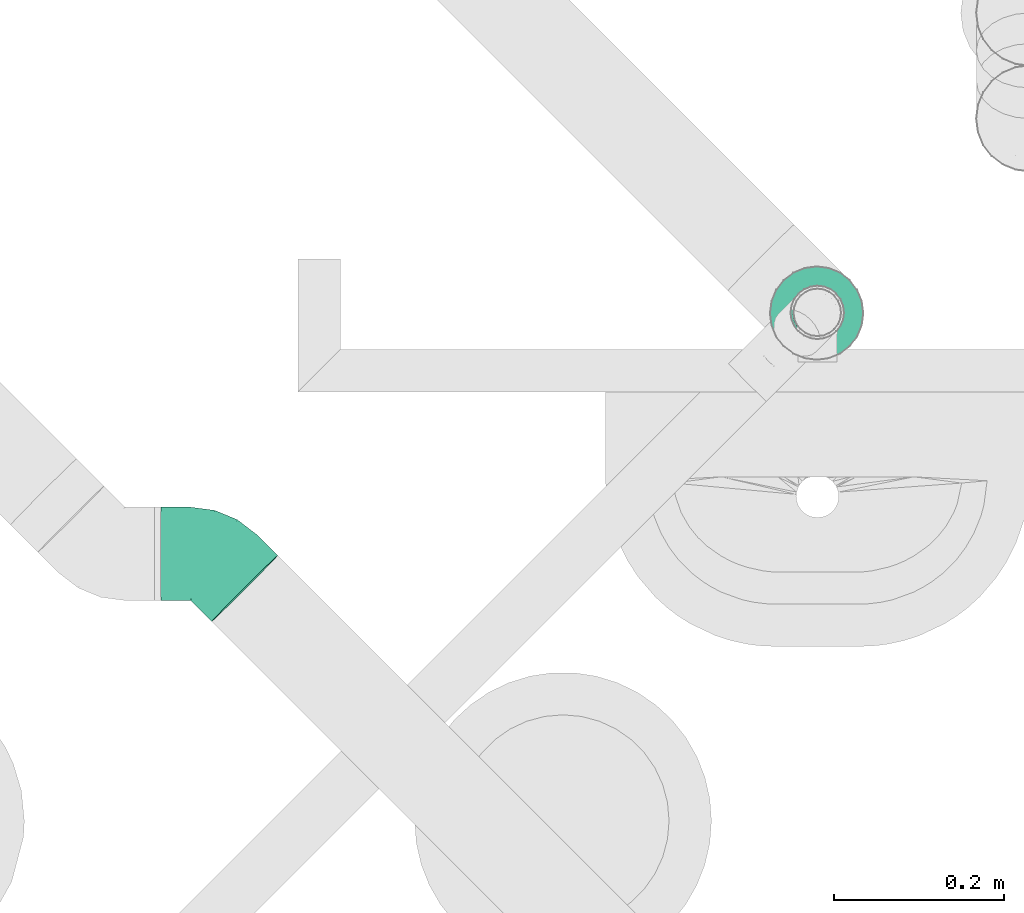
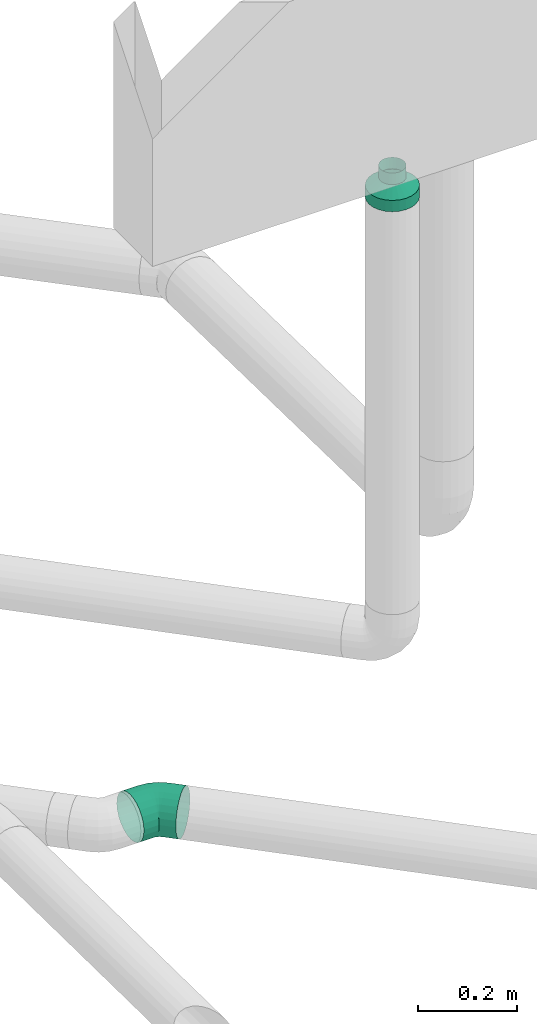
# One storey, part 138 of 374: 2 flow fittings.
"""IFC2X3 building model written with IfcOpenShell, lengths in metres."""

from ifc_helpers import new_model, si_unit, direction, origin, place, context, subcontext, project, spatial, open_shell, surface_model, source, transform, mapped, element, save


model = new_model("IFC2X3")

# Units and contexts
model_context = context("Model", 3, precision=1e-05, world=origin(), true_north=direction((-0.4480736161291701, 0.8939966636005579)))
body_context = subcontext(model_context, "Body", "Model", "MODEL_VIEW")
ifc_project = project(units=[si_unit("LENGTHUNIT", "METRE"), si_unit("AREAUNIT", "SQUARE_METRE"), si_unit("VOLUMEUNIT", "CUBIC_METRE"), si_unit("PLANEANGLEUNIT", "RADIAN"), si_unit("THERMODYNAMICTEMPERATUREUNIT", "KELVIN"), si_unit("MASSUNIT", "GRAM", prefix="KILO"), si_unit("TIMEUNIT", "SECOND")], contexts=[model_context])

# Site, building, storey
site_placement = place(None, origin())
site = spatial("IfcSite", under=ifc_project, at=site_placement, Name="Site 1", CompositionType="ELEMENT")
building_placement = place(site_placement, origin())
building = spatial("IfcBuilding", under=site, at=building_placement, Name="Undefined", CompositionType="ELEMENT")
storey_placement = place(building_placement, origin())
storey = spatial("IfcBuildingStorey", under=building, at=storey_placement, Name="Rez de chauss\x8ee", CompositionType="ELEMENT", Elevation=0.0)

# Flow fittings
shared_shape_1 = source(origin(), body_context, "Body", "SurfaceModel", [
    surface_model("IfcFaceBasedSurfaceModel", [(0.0, 0.014357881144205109, -3.552713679e-15), (0.0, 0.0, 0.0), (0.03509999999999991, 1.776356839e-15, -1.776356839e-15), (0.03509999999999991, 0.014357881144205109, 0.0), (0.0, -0.01386864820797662, -0.0037160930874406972), (0.035100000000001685, -0.01386864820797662, -0.003716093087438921), (0.0, -0.026302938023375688, -0.010895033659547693), (0.03509999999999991, -0.026302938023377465, -0.010895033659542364), (0.0, -0.03645549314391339, -0.021047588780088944), (0.035100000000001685, -0.03645549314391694, -0.021047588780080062), (0.0, -0.04363443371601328, -0.033481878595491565), (0.035100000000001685, -0.043634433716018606, -0.03348187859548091), (0.0, -0.04735052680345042, -0.04735052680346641), (0.03510000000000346, -0.04735052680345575, -0.04735052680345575), (0.0, -0.04735052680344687, -0.06170840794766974), (0.035100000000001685, -0.047350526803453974, -0.061708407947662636), (0.0, -0.04363443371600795, -0.07557705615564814), (0.035100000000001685, -0.04363443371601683, -0.07557705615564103), (0.0, -0.03645549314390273, -0.08801134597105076), (0.035100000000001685, -0.03645549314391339, -0.08801134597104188), (0.0, -0.026302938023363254, -0.0981639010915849), (0.03510000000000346, -0.026302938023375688, -0.09816390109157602), (0.0, -0.013868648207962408, -0.1053428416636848), (0.03510000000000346, -0.013868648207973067, -0.10534284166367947), (0.0, 1.5987211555e-14, -0.10905893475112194), (0.03510000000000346, 5.329070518e-15, -0.10905893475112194), (0.0, 0.014357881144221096, -0.10905893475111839), (0.035100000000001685, 0.014357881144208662, -0.10905893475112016), (0.0, 0.028226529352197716, -0.10534284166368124), (0.03510000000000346, 0.02822652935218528, -0.10534284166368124), (0.0, 0.040660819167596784, -0.0981639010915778), (0.03510000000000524, 0.040660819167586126, -0.09816390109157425), (0.0, 0.05081337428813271, -0.08801134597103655), (0.035100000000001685, 0.050813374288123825, -0.08801134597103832), (0.0, 0.05799231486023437, -0.07557705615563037), (0.035100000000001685, 0.05799231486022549, -0.07557705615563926), (0.0, 0.06170840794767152, -0.06170840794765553), (0.035100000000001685, 0.06170840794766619, -0.06170840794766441), (0.0, 0.061708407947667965, -0.0473505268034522), (0.035100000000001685, 0.061708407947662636, -0.0473505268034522), (0.0, 0.05799231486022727, -0.033481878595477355), (0.03510000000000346, 0.057992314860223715, -0.033481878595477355), (0.0, 0.050813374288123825, -0.021047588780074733), (0.035100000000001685, 0.05081337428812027, -0.021047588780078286), (0.0, 0.04066081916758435, -0.010895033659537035), (0.035100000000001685, 0.040660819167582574, -0.010895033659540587), (0.0, 0.028226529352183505, -0.0037160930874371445), (0.035100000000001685, 0.028226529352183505, -0.003716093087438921), (0.06308180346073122, -0.04369860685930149, -0.0621891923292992), (0.06356679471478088, -0.043635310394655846, -0.047839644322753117), (0.08915714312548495, -0.03299166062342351, -0.06359878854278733), (0.09009408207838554, -0.03274278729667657, -0.04927367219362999), (0.111549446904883, -0.015959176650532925, -0.0658411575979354), (0.11287449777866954, -0.015415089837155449, -0.05155490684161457), (0.06165988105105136, -0.040168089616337, -0.07603340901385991), (0.086410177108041, -0.03000522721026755, -0.07737137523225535), (0.10766459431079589, -0.013838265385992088, -0.07949979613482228), (0.05939792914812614, -0.033284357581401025, -0.0884288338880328), (0.08204038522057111, -0.023987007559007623, -0.08965285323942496), (0.10148468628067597, -0.009196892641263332, -0.09160000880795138), (0.05645009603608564, -0.02351652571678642, -0.09853073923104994), (0.07634556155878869, -0.015347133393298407, -0.09960626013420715), (0.0934308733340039, -0.0023513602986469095, -0.10131718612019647), (0.05301727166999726, -0.011530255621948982, -0.10565069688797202), (0.06971379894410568, -0.004674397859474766, -0.10655328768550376), (0.08405200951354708, 0.006231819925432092, -0.10798911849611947), (0.04933339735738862, 0.0018576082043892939, -0.10930349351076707), (0.06259704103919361, 0.007303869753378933, -0.11002050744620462), (0.07398724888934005, 0.015967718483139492, -0.1111611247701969), (0.04564952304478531, 0.015734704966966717, -0.10924019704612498), (0.0554802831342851, 0.01977137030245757, -0.10977163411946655), (0.06392248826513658, 0.026192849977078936, -0.1106170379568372), (0.04221669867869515, 0.02915533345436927, -0.1054651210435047), (0.04884852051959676, 0.03187846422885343, -0.10582362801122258), (0.054543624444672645, 0.03621038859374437, -0.10639393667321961), (0.039268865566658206, 0.04120490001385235, -0.09823553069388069), (0.043153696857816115, 0.04280007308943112, -0.09844553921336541), (0.0464898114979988, 0.04533765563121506, -0.09877961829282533), (0.03700691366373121, 0.051062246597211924, -0.08804411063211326), (0.03878390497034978, 0.05179190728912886, -0.08814017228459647), (0.040309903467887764, 0.052952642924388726, -0.08829298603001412), (0.03558499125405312, 0.05805561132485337, -0.07558538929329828), (0.03603693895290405, 0.05824118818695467, -0.0756098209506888), (0.03642505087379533, 0.0585364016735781, -0.07564868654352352), (0.035584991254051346, 0.06177170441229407, -0.04735885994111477), (0.036036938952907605, 0.061957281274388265, -0.047383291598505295), (0.036425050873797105, 0.06225249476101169, -0.04742215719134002), (0.037006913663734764, 0.05824118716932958, -0.03351464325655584), (0.038783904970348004, 0.058970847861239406, -0.033610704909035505), (0.040309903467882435, 0.060131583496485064, -0.03376351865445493), (0.039268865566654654, 0.051357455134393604, -0.021119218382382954), (0.04315369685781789, 0.05295262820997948, -0.02132922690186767), (0.04648981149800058, 0.0554902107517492, -0.02166330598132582), (0.04221669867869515, 0.04158962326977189, -0.011017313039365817), (0.048848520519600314, 0.044312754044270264, -0.01137582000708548), (0.05454362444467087, 0.048644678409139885, -0.011946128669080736), (0.04564952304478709, 0.02960335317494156, -0.0038973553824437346), (0.0554802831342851, 0.03364001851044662, -0.004428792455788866), (0.06392248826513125, 0.04006149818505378, -0.005274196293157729), (0.049333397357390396, 0.016215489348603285, -0.00024455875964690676), (0.06259704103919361, 0.02166175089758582, -0.0009615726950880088), (0.07398724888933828, 0.030325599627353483, -0.0021021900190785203), (0.05301727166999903, 0.002338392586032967, -0.00030785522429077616), (0.06971379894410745, 0.009194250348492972, -0.0012104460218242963), (0.08405200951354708, 0.02010046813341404, -0.0026462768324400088), (0.05645009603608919, -0.011082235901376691, -0.004082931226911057), (0.07634556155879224, -0.002912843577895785, -0.0051584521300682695), (0.09343087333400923, 0.010082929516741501, -0.006869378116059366), (0.05939792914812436, -0.023131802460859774, -0.011312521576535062), (0.08204038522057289, -0.013834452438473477, -0.01253654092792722), (0.10148468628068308, 0.0009556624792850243, -0.014483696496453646), (0.06165988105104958, -0.03298914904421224, -0.021503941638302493), (0.08641017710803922, -0.022826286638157, -0.022841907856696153), (0.10766459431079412, -0.006659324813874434, -0.02497032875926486), (0.06308180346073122, -0.0399825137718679, -0.0339626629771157), (0.08915714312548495, -0.02927556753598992, -0.03537225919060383), (0.11154944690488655, -0.012243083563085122, -0.03761462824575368), (0.13637120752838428, 0.008645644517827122, -0.06908044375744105), (0.13769625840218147, 0.009189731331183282, -0.054794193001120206), (0.13248635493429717, 0.010766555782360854, -0.08273908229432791), (0.12630644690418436, 0.015407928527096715, -0.09483929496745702), (0.11825263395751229, 0.022253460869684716, -0.10455647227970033), (0.10887377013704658, 0.030836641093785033, -0.11122840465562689), (0.09880900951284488, 0.04057253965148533, -0.11440041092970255), (0.08874424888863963, 0.05079767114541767, -0.11385632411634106), (0.0793653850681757, 0.060815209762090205, -0.10963322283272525), (0.07131157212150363, 0.069942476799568, -0.10201890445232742), (0.06513166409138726, 0.07755746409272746, -0.09153227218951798), (0.061246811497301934, 0.08314122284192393, -0.07888797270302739), (0.05992176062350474, 0.08631322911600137, -0.06494769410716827), (0.06124681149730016, 0.08685731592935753, -0.05066144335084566), (0.06513166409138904, 0.0847364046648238, -0.03700280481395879), (0.07131157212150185, 0.08009503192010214, -0.02490259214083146), (0.07936538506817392, 0.07324949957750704, -0.015185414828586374), (0.08874424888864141, 0.06466631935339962, -0.008513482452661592), (0.09880900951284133, 0.05493042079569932, -0.005341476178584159), (0.10887377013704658, 0.04470528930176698, -0.005885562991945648), (0.11825263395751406, 0.03468775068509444, -0.010108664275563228), (0.12630644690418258, 0.02556048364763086, -0.01772298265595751), (0.13248635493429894, 0.017945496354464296, -0.028209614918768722), (0.13637120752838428, 0.01236173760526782, -0.04085391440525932)], [open_shell([[[0, 1, 2, 3]], [[1, 4, 5, 2]], [[4, 6, 7, 5]], [[6, 8, 9, 7]], [[8, 10, 11, 9]], [[10, 12, 13, 11]], [[12, 14, 15, 13]], [[14, 16, 17, 15]], [[16, 18, 19, 17]], [[18, 20, 21, 19]], [[20, 22, 23, 21]], [[22, 24, 25, 23]], [[24, 26, 27, 25]], [[26, 28, 29, 27]], [[28, 30, 31, 29]], [[30, 32, 33, 31]], [[32, 34, 35, 33]], [[34, 36, 37, 35]], [[36, 38, 39, 37]], [[38, 40, 41, 39]], [[40, 42, 43, 41]], [[42, 44, 45, 43]], [[44, 46, 47, 45]], [[46, 0, 3, 47]], [[13, 15, 48, 49]], [[49, 48, 50, 51]], [[51, 50, 52, 53]], [[15, 17, 54, 48]], [[48, 54, 55, 50]], [[50, 55, 56, 52]], [[17, 19, 57, 54]], [[54, 57, 58, 55]], [[55, 58, 59, 56]], [[19, 21, 60, 57]], [[57, 60, 61, 58]], [[58, 61, 62, 59]], [[21, 23, 63, 60]], [[60, 63, 64, 61]], [[61, 64, 65, 62]], [[23, 25, 66, 63]], [[63, 66, 67, 64]], [[64, 67, 68, 65]], [[25, 27, 69, 66]], [[66, 69, 70, 67]], [[67, 70, 71, 68]], [[27, 29, 72, 69]], [[69, 72, 73, 70]], [[70, 73, 74, 71]], [[29, 31, 75, 72]], [[72, 75, 76, 73]], [[73, 76, 77, 74]], [[31, 33, 78, 75]], [[75, 78, 79, 76]], [[76, 79, 80, 77]], [[33, 35, 81, 78]], [[78, 81, 82, 79]], [[79, 82, 83, 80]], [[35, 37, 81]], [[81, 37, 82]], [[82, 37, 83]], [[37, 39, 84]], [[37, 84, 85]], [[37, 85, 86]], [[39, 41, 87, 84]], [[84, 87, 88, 85]], [[85, 88, 89, 86]], [[41, 43, 90, 87]], [[87, 90, 91, 88]], [[88, 91, 92, 89]], [[43, 45, 93, 90]], [[90, 93, 94, 91]], [[91, 94, 95, 92]], [[45, 47, 96, 93]], [[93, 96, 97, 94]], [[94, 97, 98, 95]], [[47, 3, 99, 96]], [[96, 99, 100, 97]], [[97, 100, 101, 98]], [[3, 2, 102, 99]], [[99, 102, 103, 100]], [[100, 103, 104, 101]], [[2, 5, 105, 102]], [[102, 105, 106, 103]], [[103, 106, 107, 104]], [[5, 7, 108, 105]], [[105, 108, 109, 106]], [[106, 109, 110, 107]], [[7, 9, 111, 108]], [[108, 111, 112, 109]], [[109, 112, 113, 110]], [[9, 11, 114, 111]], [[111, 114, 115, 112]], [[112, 115, 116, 113]], [[11, 13, 49, 114]], [[114, 49, 51, 115]], [[115, 51, 53, 116]], [[53, 52, 117, 118]], [[52, 56, 119, 117]], [[56, 59, 120, 119]], [[59, 62, 121, 120]], [[62, 65, 122, 121]], [[65, 68, 123, 122]], [[68, 71, 124, 123]], [[71, 74, 125, 124]], [[74, 77, 126, 125]], [[77, 80, 127, 126]], [[80, 83, 128, 127]], [[83, 37, 129, 128]], [[37, 86, 130, 129]], [[86, 89, 131, 130]], [[89, 92, 132, 131]], [[92, 95, 133, 132]], [[95, 98, 134, 133]], [[98, 101, 135, 134]], [[101, 104, 136, 135]], [[104, 107, 137, 136]], [[107, 110, 138, 137]], [[110, 113, 139, 138]], [[113, 116, 140, 139]], [[116, 53, 118, 140]]])]),
])
flow_fitting_1_placement = place(storey_placement, origin())
element("IfcFlowFitting", 1, at=flow_fitting_1_placement, inside=storey, Name="PE-HD coude 45°", ObjectType="PE-HD coude 45°", context=body_context, shape_type="MappedRepresentation", body=[
    mapped(shared_shape_1, transform((57.80122476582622, 13.140743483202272, -1.2342732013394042), x_axis=(0.999980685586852, -9.316660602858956e-05, 0.006214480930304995), y_axis=(0.0006261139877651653, -0.9932909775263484, -0.11564013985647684), z_axis=(0.0061835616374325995, 0.11564179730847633, -0.993271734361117))),
])
shared_shape_2 = source(origin(), body_context, "Body", "SurfaceModel", [
    surface_model("IfcFaceBasedSurfaceModel", [(0.0, 0.014357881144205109, -3.552713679e-15), (0.0, 0.0, 0.0), (0.02785, 0.0, 0.0), (0.02785, 0.014357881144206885, 0.0), (0.0, -0.01386864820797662, -0.0037160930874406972), (0.02785, -0.013868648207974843, -0.0037160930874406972), (0.0, -0.026302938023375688, -0.010895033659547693), (0.02785, -0.02630293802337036, -0.010895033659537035), (0.0, -0.03645549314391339, -0.021047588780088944), (0.02785, -0.03645549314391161, -0.02104758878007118), (0.0, -0.04363443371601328, -0.033481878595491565), (0.02785, -0.04363443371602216, -0.033481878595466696), (0.0, -0.04735052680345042, -0.04735052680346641), (0.02785, -0.047350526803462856, -0.047350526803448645), (0.0, -0.04735052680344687, -0.06170840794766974), (0.02785, -0.047350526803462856, -0.061708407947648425), (0.0, -0.04363443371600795, -0.07557705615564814), (0.02785, -0.043634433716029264, -0.07557705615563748), (0.0, -0.03645549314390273, -0.08801134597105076), (0.02785, -0.03645549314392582, -0.0880113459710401), (0.0, -0.026302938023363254, -0.0981639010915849), (0.02785, -0.026302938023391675, -0.09816390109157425), (0.0, -0.013868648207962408, -0.1053428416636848), (0.02785, -0.013868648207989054, -0.10534284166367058), (0.0, 1.5987211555e-14, -0.10905893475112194), (0.02785, -1.4210854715e-14, -0.10905893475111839), (0.0, 0.014357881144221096, -0.10905893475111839), (0.02785, 0.014357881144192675, -0.10905893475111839), (0.0, 0.028226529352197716, -0.10534284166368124), (0.02785, 0.028226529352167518, -0.1053428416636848), (0.0, 0.040660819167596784, -0.0981639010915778), (0.02785, 0.040660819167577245, -0.09816390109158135), (0.0, 0.05081337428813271, -0.08801134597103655), (0.02785, 0.05081337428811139, -0.08801134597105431), (0.0, 0.05799231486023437, -0.07557705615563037), (0.02785, 0.05799231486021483, -0.07557705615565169), (0.0, 0.06170840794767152, -0.06170840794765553), (0.02785, 0.06170840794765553, -0.06170840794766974), (0.0, 0.061708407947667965, -0.0473505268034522), (0.02785, 0.061708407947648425, -0.04735052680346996), (0.0, 0.05799231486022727, -0.033481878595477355), (0.02785, 0.05799231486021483, -0.03348187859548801), (0.0, 0.050813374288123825, -0.021047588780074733), (0.02785, 0.0508133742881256, -0.021047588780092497), (0.0, 0.04066081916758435, -0.010895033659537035), (0.02785, 0.040660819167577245, -0.010895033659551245), (0.0, 0.028226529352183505, -0.0037160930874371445), (0.02785, 0.028226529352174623, -0.0037160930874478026), (0.047850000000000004, -0.020581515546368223, -0.05818420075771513), (0.047850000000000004, -0.02058151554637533, -0.05087473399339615), (0.047850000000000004, -0.018689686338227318, -0.06524460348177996), (0.047850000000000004, -0.015034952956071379, -0.07157478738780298), (0.047850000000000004, -0.00986637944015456, -0.0767433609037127), (0.047850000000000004, -0.0035361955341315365, -0.08039809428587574), (0.047850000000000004, 0.0035242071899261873, -0.08228992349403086), (0.047850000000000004, 0.010833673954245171, -0.08228992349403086), (0.047850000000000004, 0.01789407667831, -0.08039809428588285), (0.047850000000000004, 0.02422426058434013, -0.0767433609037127), (0.047850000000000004, 0.029392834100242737, -0.07157478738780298), (0.047850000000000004, 0.03304756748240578, -0.06524460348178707), (0.047850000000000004, 0.0349393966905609, -0.05818420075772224), (0.047850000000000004, 0.03493939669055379, -0.050874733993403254), (0.047850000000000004, 0.03304756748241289, -0.043814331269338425), (0.047850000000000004, 0.029392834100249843, -0.0374841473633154), (0.047850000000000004, 0.02422426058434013, -0.03231557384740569), (0.047850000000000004, 0.017894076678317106, -0.028660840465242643), (0.047850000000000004, 0.010833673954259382, -0.026769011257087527), (0.047850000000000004, 0.003524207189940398, -0.026769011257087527), (0.047850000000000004, -0.003536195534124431, -0.028660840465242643), (0.047850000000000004, -0.00986637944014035, -0.03231557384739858), (0.047850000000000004, -0.015034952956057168, -0.0374841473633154), (0.047850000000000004, -0.018689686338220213, -0.04381433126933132), (0.07635, 0.003524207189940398, -0.026769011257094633), (0.07635, 0.010833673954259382, -0.026769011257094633), (0.07635, -0.003536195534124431, -0.02866084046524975), (0.07635, -0.00986637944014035, -0.03231557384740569), (0.07635, -0.015034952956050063, -0.0374841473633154), (0.07635, -0.018689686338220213, -0.043814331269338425), (0.07635, -0.02058151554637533, -0.050874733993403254), (0.07635, -0.020581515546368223, -0.05818420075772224), (0.07635, -0.018689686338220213, -0.06524460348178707), (0.07635, -0.015034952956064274, -0.07157478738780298), (0.07635, -0.00986637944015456, -0.0767433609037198), (0.07635, -0.003536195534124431, -0.08039809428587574), (0.07635, 0.0035242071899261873, -0.08228992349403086), (0.07635, 0.010833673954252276, -0.08228992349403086), (0.07635, 0.017894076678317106, -0.08039809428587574), (0.07635, 0.02422426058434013, -0.0767433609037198), (0.07635, 0.029392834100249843, -0.07157478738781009), (0.07635, 0.03304756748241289, -0.06524460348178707), (0.07635, 0.0349393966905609, -0.05818420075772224), (0.07635, 0.0349393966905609, -0.050874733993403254), (0.07635, 0.03304756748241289, -0.04381433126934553), (0.07635, 0.029392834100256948, -0.0374841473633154), (0.07635, 0.024224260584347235, -0.03231557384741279), (0.07635, 0.017894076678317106, -0.02866084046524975)], [open_shell([[[0, 1, 2, 3]], [[1, 4, 5, 2]], [[4, 6, 7, 5]], [[6, 8, 9, 7]], [[8, 10, 11, 9]], [[10, 12, 13, 11]], [[12, 14, 15, 13]], [[14, 16, 17, 15]], [[16, 18, 19, 17]], [[18, 20, 21, 19]], [[20, 22, 23, 21]], [[22, 24, 25, 23]], [[24, 26, 27, 25]], [[26, 28, 29, 27]], [[28, 30, 31, 29]], [[30, 32, 33, 31]], [[32, 34, 35, 33]], [[34, 36, 37, 35]], [[36, 38, 39, 37]], [[38, 40, 41, 39]], [[40, 42, 43, 41]], [[42, 44, 45, 43]], [[44, 46, 47, 45]], [[46, 0, 3, 47]], [[13, 15, 48, 49]], [[15, 17, 50, 48]], [[17, 19, 51, 50]], [[19, 21, 52, 51]], [[21, 23, 53, 52]], [[23, 25, 54, 53]], [[25, 27, 55, 54]], [[27, 29, 56, 55]], [[29, 31, 57, 56]], [[31, 33, 58, 57]], [[33, 35, 59, 58]], [[35, 37, 60, 59]], [[37, 39, 61, 60]], [[39, 41, 62, 61]], [[41, 43, 63, 62]], [[43, 45, 64, 63]], [[45, 47, 65, 64]], [[47, 3, 66, 65]], [[3, 2, 67, 66]], [[2, 5, 68, 67]], [[5, 7, 69, 68]], [[7, 9, 70, 69]], [[9, 11, 71, 70]], [[11, 13, 49, 71]], [[66, 67, 72, 73]], [[67, 68, 74, 72]], [[68, 69, 75, 74]], [[69, 70, 76, 75]], [[70, 71, 77, 76]], [[71, 49, 78, 77]], [[49, 48, 79, 78]], [[48, 50, 80, 79]], [[50, 51, 81, 80]], [[51, 52, 82, 81]], [[52, 53, 83, 82]], [[53, 54, 84, 83]], [[54, 55, 85, 84]], [[55, 56, 86, 85]], [[56, 57, 87, 86]], [[57, 58, 88, 87]], [[58, 59, 89, 88]], [[59, 60, 90, 89]], [[60, 61, 91, 90]], [[61, 62, 92, 91]], [[62, 63, 93, 92]], [[63, 64, 94, 93]], [[64, 65, 95, 94]], [[65, 66, 73, 95]]])]),
])
flow_fitting_2_placement = place(storey_placement, origin())
element("IfcFlowFitting", 2, at=flow_fitting_2_placement, inside=storey, Name="PE-HD réduction concentrique", ObjectType="PE-HD réduction concentrique", context=body_context, shape_type="MappedRepresentation", body=[
    mapped(shared_shape_2, transform((58.54670767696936, 13.363238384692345, -0.09721785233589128), x_axis=(0.0, 0.0, 1.0), y_axis=(-0.7933533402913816, 0.6087614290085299, 0.0), z_axis=(-0.6087614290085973, -0.79335334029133, 0.0))),
])

save(model, "model.ifc")
